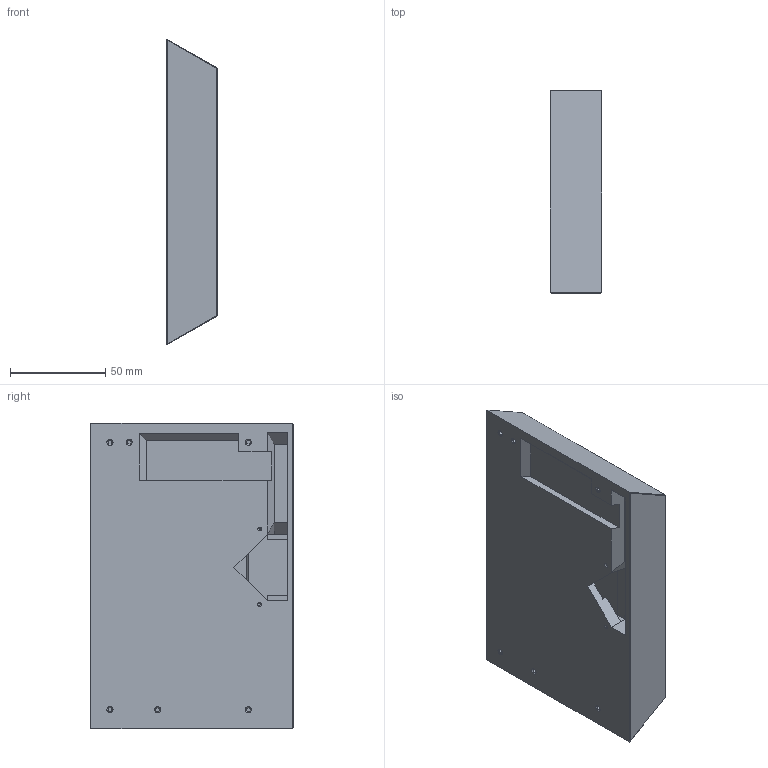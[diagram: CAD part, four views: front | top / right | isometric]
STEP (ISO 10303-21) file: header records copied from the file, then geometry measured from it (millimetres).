
FILE_DESCRIPTION (( 'STEP AP214' ), '1' );
FILE_NAME ('dock.STEP', '2015-02-04T04:04:20', ( '' ), ( '' ), 'SwSTEP 2.0', 'SolidWorks 2013', '' );
FILE_SCHEMA (( 'AUTOMOTIVE_DESIGN' ));
Length unit declared in the file: millimetre
Products named in the file (1): dock
Bounding box: 26.8 x 106 x 160.33 mm (x, y, z)
Volume: 224158.4 mm3; surface area: 69008.7 mm2
Topology: 1 solids, 1 shells, 105 faces, 250 edges, 155 vertices
Faces by surface type: plane 69, cylinder 20, cone 16
Entity records: 3028 total; most frequent: DIRECTION 518, CARTESIAN_POINT 511, ORIENTED_EDGE 500, EDGE_CURVE 250, VECTOR 194, LINE 194, AXIS2_PLACEMENT_3D 162, VERTEX_POINT 155
